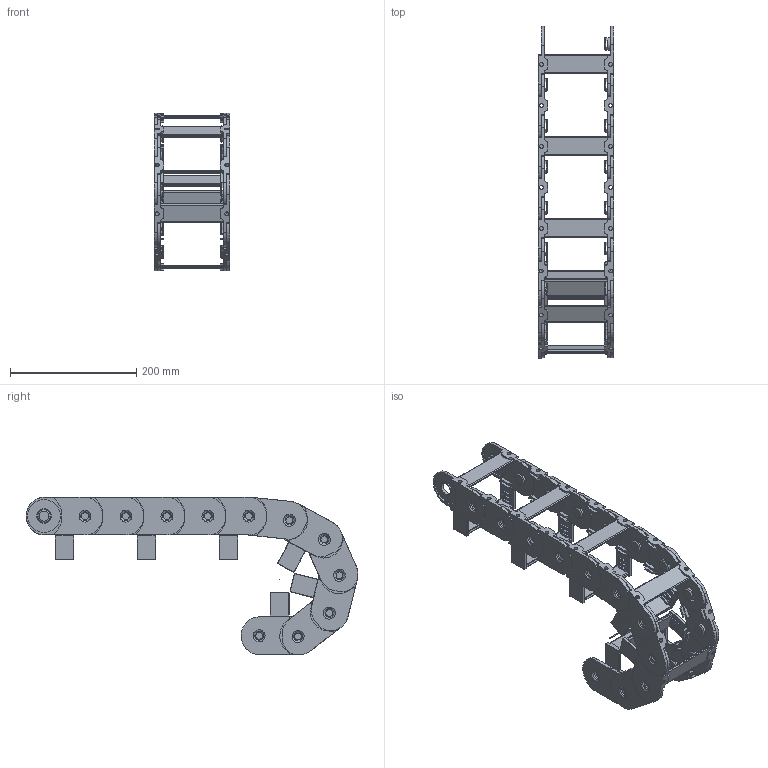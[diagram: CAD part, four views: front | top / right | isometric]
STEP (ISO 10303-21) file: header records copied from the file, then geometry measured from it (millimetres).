
FILE_DESCRIPTION((''),'2;1');
FILE_NAME('C:\Uebbing\TRACE PARTS\PKK\PKK 243\PKK 243 vereinfacht.stp','2013-05-03T08:48:14',('Uebbing'),(''),'Autodesk Inventor 10','Autodesk Inventor 10','');
FILE_SCHEMA(('AUTOMOTIVE_DESIGN { 1 0 10303 214 1 1 1 1 }'));
Length unit declared in the file: millimetre
Products named in the file (7): PKK 243 vereinfacht; Achse; PKK 240 Glied ohne Steg vereinfacht; PKK240 Lasche vereinfacht; PKK 243 Glied vereinfacht; 22 Steg vereinfacht; PKK 220 Aufbausteg lang vereinfacht
Assembly tree (20 placements, depth 3):
  PKK 243 vereinfacht
    Achse
    PKK 240 Glied ohne Steg vereinfacht  x5
      PKK240 Lasche vereinfacht
    PKK 243 Glied vereinfacht  x6
      PKK240 Lasche vereinfacht
      22 Steg vereinfacht
      PKK 220 Aufbausteg lang vereinfacht
Bounding box: 120 x 526.27 x 250.07 mm (x, y, z)
Volume: 888598.7 mm3; surface area: 554035.1 mm2
Topology: 47 solids, 47 shells, 2627 faces, 6510 edges, 4145 vertices
Faces by surface type: plane 1114, cylinder 1011, bspline 362, torus 140
Full cylindrical faces by diameter (mm): 1 x1, 6.1 x22, 6.3 x12, 15 x22, 20 x22, 20.1 x22, 23 x44, 52 x44
Entity records: 5082 total; most frequent: CARTESIAN_POINT 935, DIRECTION 861, ORIENTED_EDGE 774, EDGE_CURVE 387, AXIS2_PLACEMENT_3D 303, VECTOR 255, LINE 255, VERTEX_POINT 252
